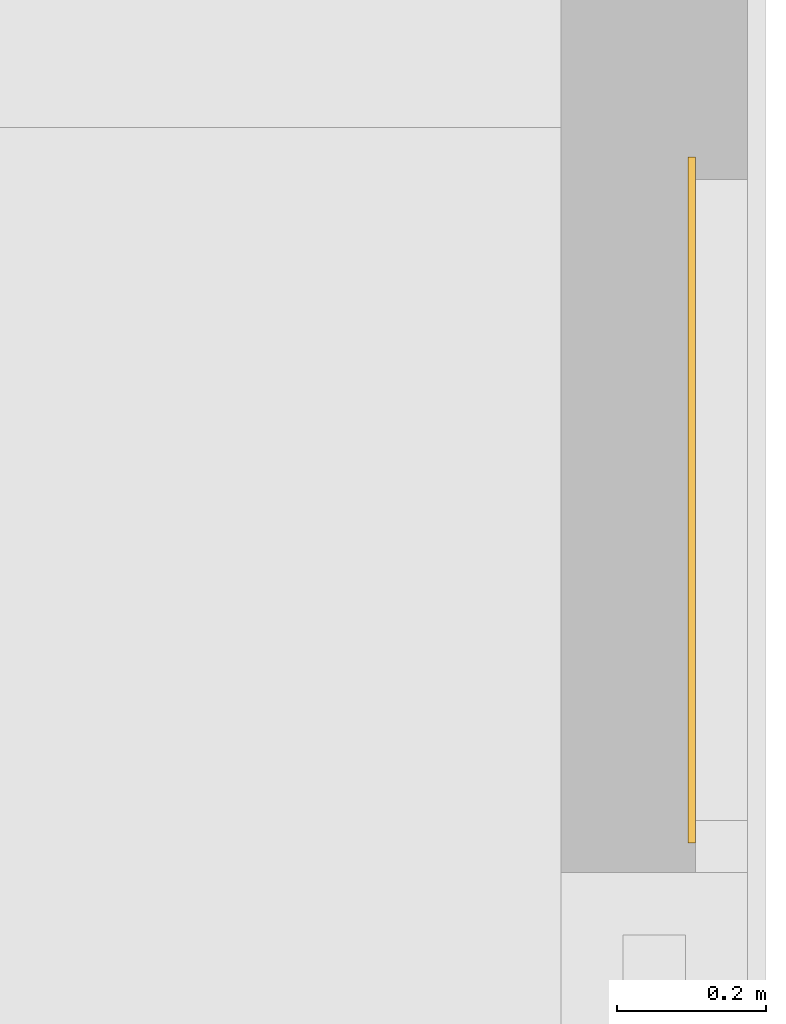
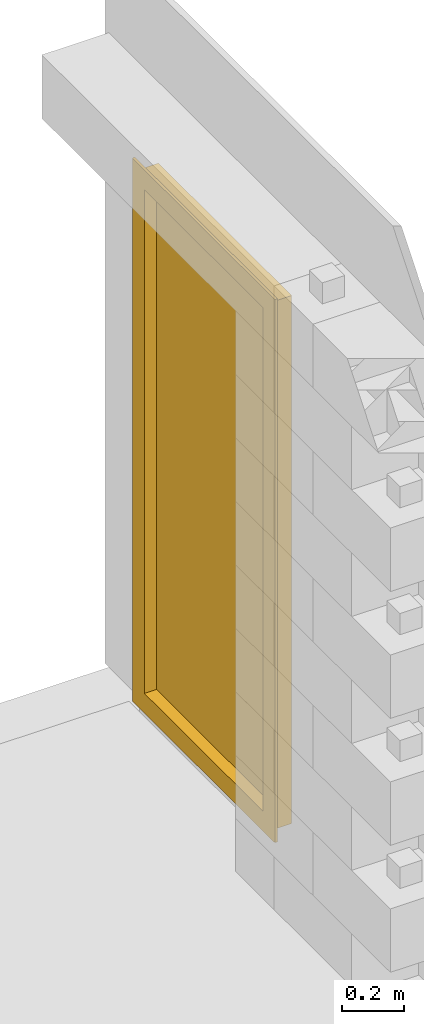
# One storey, part 8 of 8: 1 window.
"""IFC4 building model written with IfcOpenShell, lengths in centimetres."""

from ifc_helpers import new_model, entity, si_unit, converted_unit, direction, frame, origin, place, context, subcontext, project, spatial, polygons, source, transform, mapped, material, constituent, constituent_set, type_object, type_shapes, element, save


model = new_model("IFC4")

# Units and contexts
model_context = context("Model", 3, precision=0.001, world=origin(), true_north=direction((0.0, 1.0)))
body_context = subcontext(model_context, "Body", "Model", "MODEL_VIEW")
ifc_project = project(units=[si_unit("LENGTHUNIT", "METRE", prefix="CENTI"), si_unit("AREAUNIT", "SQUARE_METRE"), si_unit("VOLUMEUNIT", "CUBIC_METRE"), converted_unit("PLANEANGLEUNIT", "DEGREE", entity("IfcPlaneAngleMeasure", 0.017453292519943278), si_unit("PLANEANGLEUNIT", "RADIAN"), dimensions=[0, 0, 0, 0, 0, 0, 0])], contexts=[model_context])

# Site, building, storey
site_placement = place(None, origin())
site = spatial("IfcSite", under=ifc_project, at=site_placement, Name="Default", CompositionType="ELEMENT")
building_placement = place(site_placement, origin())
building = spatial("IfcBuilding", under=site, at=building_placement, CompositionType="ELEMENT")
storey_placement = place(building_placement, frame((0.0, 0.0, -4.0)))
storey = spatial("IfcBuildingStorey", under=building, at=storey_placement, Name="L00__ABOVE Slab", CompositionType="ELEMENT", Elevation=-4.000000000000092)

# Window
ifc_material_1 = material(Name="_WINDOW__Profile__Aluminium", Category="Miscellaneous")
ifc_constituent_1 = constituent(ifc_material_1, Name="_WINDOW__Profile__Aluminium", Category="Miscellaneous", fraction=0.3749585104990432)
ifc_material_2 = material(Name="_WINDOW__Glazing", Category="Unassigned")
ifc_constituent_2 = constituent(ifc_material_2, Name="_WINDOW__Glazing", Category="Unassigned", fraction=0.6250414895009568)
ifc_constituent_set_1 = constituent_set(constituents=[ifc_constituent_1, ifc_constituent_2])
ifc_constituent_3 = constituent(ifc_material_1, Name="_SASH", Category="Miscellaneous", fraction=0.4397097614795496)
ifc_constituent_4 = constituent(ifc_material_2, Name="_GLAZING", Category="Unassigned", fraction=0.5602902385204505)
ifc_constituent_set_2 = constituent_set(constituents=[ifc_constituent_3, ifc_constituent_4])
window_type = type_object("IfcWindowType", Name="Windows : wdw_s__PANEL__Mobile, Hung, Interior__wp : Glazed, Side hung", PartitioningType="NOTDEFINED", PredefinedType="WINDOW", material=ifc_constituent_set_2)
shared_shape = source(origin(), body_context, "Body", "Tessellation", [
    polygons([(-2.5828829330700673e-44, 2.696870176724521e-13, 0.0), (86.00000000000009, -7.57206053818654e-15, 0.0), (86.00000000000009, -7.57206053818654e-15, 208.0000000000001), (-2.5828829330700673e-44, 2.696870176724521e-13, 208.0000000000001), (4.799999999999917, 2.540166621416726e-13, 203.20000000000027), (81.20000000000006, 7.816298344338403e-15, 203.20000000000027), (81.20000000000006, 7.816298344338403e-15, 4.800000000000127), (4.799999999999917, 2.540166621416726e-13, 4.80000000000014), (2.4062837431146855e-14, 7.000000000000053, 208.0000000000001), (2.2558417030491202e-14, 7.000000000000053, 0.0), (86.00000000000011, 7.000000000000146, 0.0), (86.00000000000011, 7.000000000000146, 208.0000000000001), (4.799999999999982, 8.00000000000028, 4.800000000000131), (4.799999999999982, 8.00000000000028, 203.20000000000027), (81.19999999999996, 8.000000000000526, 4.800000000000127), (81.20000000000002, 8.000000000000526, 203.20000000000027), (-3.0000000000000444, 6.99999999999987, -2.999999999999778), (89.00000000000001, 7.000000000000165, -2.999999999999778), (89.00000000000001, 7.000000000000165, 211.00000000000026), (-3.000000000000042, 6.99999999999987, 211.00000000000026), (-3.0000000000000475, 8.000000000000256, -2.999999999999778), (-3.0000000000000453, 8.000000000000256, 211.00000000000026), (89.00000000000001, 8.000000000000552, 211.00000000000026), (89.00000000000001, 8.000000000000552, -2.999999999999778)], [[[1, 2, 3, 4], [5, 6, 7, 8]], [[4, 9, 10, 1]], [[2, 11, 12, 3]], [[1, 10, 11, 2]], [[13, 14, 5, 8]], [[15, 13, 8, 7]], [[16, 15, 7, 6]], [[17, 18, 19, 20], [10, 9, 12, 11]], [[21, 22, 23, 24], [14, 13, 15, 16]], [[24, 18, 17, 21]], [[23, 19, 18, 24]], [[21, 17, 20, 22]], [[3, 12, 9, 4]], [[5, 14, 16, 6]], [[22, 20, 19, 23]]], closed=True),
    polygons([(4.800000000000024, 3.5000000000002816, 203.20000000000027), (81.19999999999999, 3.5000000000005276, 203.20000000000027), (81.19999999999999, 3.5000000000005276, 4.800000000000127), (4.800000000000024, 3.5000000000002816, 4.800000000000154), (4.800000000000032, 0.9000000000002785, 203.20000000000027), (4.800000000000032, 0.9000000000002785, 4.800000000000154), (81.2, 0.9000000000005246, 4.800000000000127), (81.2, 0.9000000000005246, 203.20000000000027)], [[[1, 2, 3, 4]], [[5, 1, 4, 6]], [[6, 4, 3, 7]], [[7, 3, 2, 8]], [[5, 6, 7, 8]], [[8, 2, 1, 5]]], closed=True),
])
type_shapes(window_type, [shared_shape])
window_placement = place(storey_placement, frame((3181.828914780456, 2310.5200309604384, 10.0), z_axis=(0.0, 0.0, 1.0), x_axis=(0.0, 1.0, 0.0)))
element("IfcWindow", 1, at=window_placement, inside=storey, type_object=window_type, material=ifc_constituent_set_1, Name="Windows : wdw_s__PANEL__Mobile, Hung, Interior__wp : Glazed, Side hung", OverallHeight=100.00000000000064, OverallWidth=97.00000000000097, PartitioningType="NOTDEFINED", PredefinedType="WINDOW", context=body_context, shape_type="MappedRepresentation", body=[
    mapped(shared_shape, transform((0.0, 0.0, 0.0), scale=1.0)),
])

save(model, "model.ifc")
